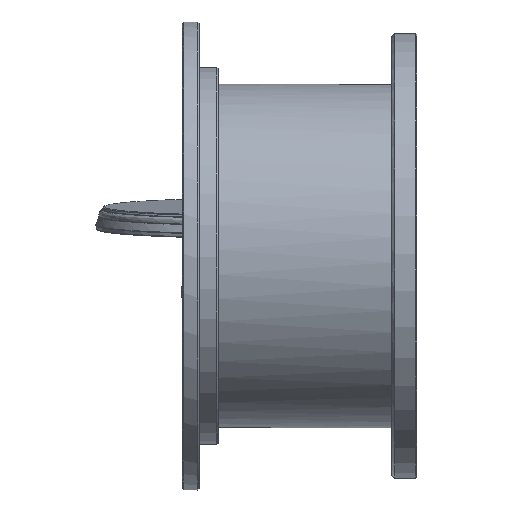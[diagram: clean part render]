
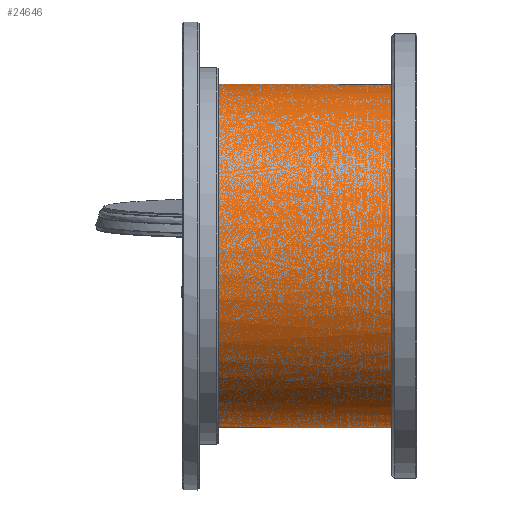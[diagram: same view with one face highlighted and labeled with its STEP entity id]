
A CAD part, left-side view. The second image highlights one B-rep face of the part: STEP entity #24646.
In plain terms, the highlighted free-form (B-spline) face has degree [2, 1] with [7, 2] control points.
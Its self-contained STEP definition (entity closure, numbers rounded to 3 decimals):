
#24567=CARTESIAN_POINT('V3',(0.5,109.9,
   0.0));
#24568=VERTEX_POINT('V3',#24567);
#24574=CARTESIAN_POINT('E11',(0.5,109.9,
   0.0));
#24575=CARTESIAN_POINT('E11',(0.5,109.9,
   190.352));
#24576=CARTESIAN_POINT('E11',(0.5,-54.95,
   95.176));
#24577=CARTESIAN_POINT('E11',(0.5,-219.8,
   0.));
#24578=CARTESIAN_POINT('E11',(0.5,-54.95,
   -95.176));
#24579=CARTESIAN_POINT('E11',(0.5,109.9,
   -190.352));
#24580=CARTESIAN_POINT('E11',(0.5,109.9,
   0.0));
#24588=(BOUNDED_CURVE()B_SPLINE_CURVE(2,(#24574,#24575,#24576,
   #24577,#24578,#24579,#24580),.CIRCULAR_ARC.,.T.,.U.)
   B_SPLINE_CURVE_WITH_KNOTS((3,2,2,3),(0.0,537.173,
   1074.346,1611.519),.UNSPECIFIED.)CURVE()
   GEOMETRIC_REPRESENTATION_ITEM()RATIONAL_B_SPLINE_CURVE((1.0,
   0.5,1.0,0.5,1.0,0.5,1.0)
   )REPRESENTATION_ITEM('E11'));
#24589=EDGE_CURVE('E11',#24568,#24568,#24588,.T.);
#24596=CARTESIAN_POINT('F3',(0.5,109.9,
   0.0));
#24597=CARTESIAN_POINT('F3',(0.5,109.9,
   190.352));
#24598=CARTESIAN_POINT('F3',(0.5,-54.95,
   95.176));
#24599=CARTESIAN_POINT('F3',(0.5,-219.8,
   0.));
#24600=CARTESIAN_POINT('F3',(0.5,-54.95,
   -95.176));
#24601=CARTESIAN_POINT('F3',(0.5,109.9,
   -190.352));
#24602=CARTESIAN_POINT('F3',(0.5,109.9,
   0.0));
#24603=CARTESIAN_POINT('F3',(114.5,109.9,
   0.0));
#24604=CARTESIAN_POINT('F3',(114.5,109.9,
   190.352));
#24605=CARTESIAN_POINT('F3',(114.5,-54.95,
   95.176));
#24606=CARTESIAN_POINT('F3',(114.5,
   -219.8,0.));
#24607=CARTESIAN_POINT('F3',(114.5,-54.95,
   -95.176));
#24608=CARTESIAN_POINT('F3',(114.5,109.9,
   -190.352));
#24609=CARTESIAN_POINT('F3',(114.5,109.9,
   0.0));
#24617=(BOUNDED_SURFACE()B_SPLINE_SURFACE(2,1,((#24596,#24603),(
   #24597,#24604),(#24598,#24605),(#24599,#24606),(#24600,
   #24607),(#24601,#24608),(#24602,#24609)),.CYLINDRICAL_SURF.,
   .T.,.F.,.U.)B_SPLINE_SURFACE_WITH_KNOTS((3,2,2,3),(2,2),(0.0,
   3.34,6.679,10.019),(0.0,1.0),
   .UNSPECIFIED.)GEOMETRIC_REPRESENTATION_ITEM()
   RATIONAL_B_SPLINE_SURFACE(((1.0,1.0),(0.5,
   0.5),(1.0,1.0),(0.5,
   0.5),(1.0,1.0),(0.5,
   0.5),(1.0,1.0)))REPRESENTATION_ITEM('F3')SURFACE()
   );
#24618=CARTESIAN_POINT('V4',(114.5,109.9,
   0.0));
#24619=VERTEX_POINT('V4',#24618);
#24620=CARTESIAN_POINT('E3',(114.5,109.9,
   0.0));
#24621=CARTESIAN_POINT('E3',(0.5,109.9,
   0.0));
#24622=QUASI_UNIFORM_CURVE('E3',1,(#24620,#24621),.POLYLINE_FORM.,
   .F.,.U.);
#24623=EDGE_CURVE('E3',#24619,#24568,#24622,.T.);
#24624=ORIENTED_EDGE('E3',*,*,#24623,.F.);
#24625=CARTESIAN_POINT('E12',(114.5,
   109.9,0.0));
#24626=CARTESIAN_POINT('E12',(114.5,
   109.9,-190.352));
#24627=CARTESIAN_POINT('E12',(114.5,
   -54.95,-95.176));
#24628=CARTESIAN_POINT('E12',(114.5,
   -219.8,0.));
#24629=CARTESIAN_POINT('E12',(114.5,
   -54.95,95.176));
#24630=CARTESIAN_POINT('E12',(114.5,
   109.9,190.352));
#24631=CARTESIAN_POINT('E12',(114.5,
   109.9,0.0));
#24639=(BOUNDED_CURVE()B_SPLINE_CURVE(2,(#24625,#24626,#24627,
   #24628,#24629,#24630,#24631),.CIRCULAR_ARC.,.T.,.U.)
   B_SPLINE_CURVE_WITH_KNOTS((3,2,2,3),(0.0,3.34,
   6.679,10.019),.UNSPECIFIED.)CURVE()
   GEOMETRIC_REPRESENTATION_ITEM()RATIONAL_B_SPLINE_CURVE((1.0,
   0.5,1.0,0.5,1.0,0.5,1.0)
   )REPRESENTATION_ITEM('E12'));
#24640=EDGE_CURVE('E12',#24619,#24619,#24639,.T.);
#24641=ORIENTED_EDGE('E12',*,*,#24640,.F.);
#24642=ORIENTED_EDGE('E3',*,*,#24623,.T.);
#24643=ORIENTED_EDGE('E11',*,*,#24589,.F.);
#24644=EDGE_LOOP('F3',(#24624,#24641,#24642,#24643));
#24645=FACE_OUTER_BOUND('F3',#24644,.F.);
#24646=ADVANCED_FACE('F3',(#24645),#24617,.T.);
